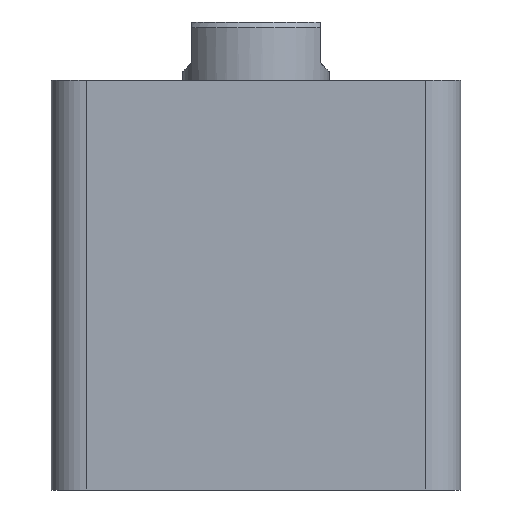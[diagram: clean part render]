
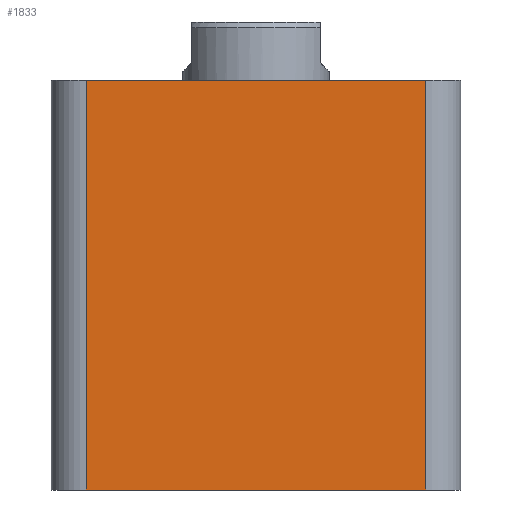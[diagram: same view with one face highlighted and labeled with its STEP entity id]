
A CAD part, front view. The second image highlights one B-rep face of the part: STEP entity #1833.
In plain terms, the highlighted planar face has unit normal (0, -1, 0).
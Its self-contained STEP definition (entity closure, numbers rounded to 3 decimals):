
#128 = AXIS2_PLACEMENT_3D ( 'NONE', #2197, #2192, #2191 ) ;
#293 = FACE_OUTER_BOUND ( 'NONE', #1023, .T. ) ;
#303 = VECTOR ( 'NONE', #2220, 1000. ) ;
#305 = VECTOR ( 'NONE', #2223, 1000. ) ;
#306 = LINE ( 'NONE', #2222, #303 ) ;
#307 = VECTOR ( 'NONE', #2225, 1000. ) ;
#309 = VECTOR ( 'NONE', #2229, 1000. ) ;
#310 = LINE ( 'NONE', #2228, #307 ) ;
#312 = LINE ( 'NONE', #2230, #309 ) ;
#318 = LINE ( 'NONE', #2241, #305 ) ;
#1023 = EDGE_LOOP ( 'NONE', ( #1951, #1941, #1954, #1987 ) ) ;
#1239 = VERTEX_POINT ( 'NONE', #2590 ) ;
#1252 = VERTEX_POINT ( 'NONE', #2573 ) ;
#1253 = VERTEX_POINT ( 'NONE', #2572 ) ;
#1265 = VERTEX_POINT ( 'NONE', #2556 ) ;
#1619 = EDGE_CURVE ( 'NONE', #1252, #1253, #312, .T. ) ;
#1620 = EDGE_CURVE ( 'NONE', #1252, #1265, #310, .T. ) ;
#1621 = EDGE_CURVE ( 'NONE', #1265, #1239, #318, .T. ) ;
#1622 = EDGE_CURVE ( 'NONE', #1239, #1253, #306, .T. ) ;
#1833 = ADVANCED_FACE ( 'NONE', ( #293 ), #2194, .F. ) ;
#1941 = ORIENTED_EDGE ( 'NONE', *, *, #1620, .T. ) ;
#1951 = ORIENTED_EDGE ( 'NONE', *, *, #1619, .F. ) ;
#1954 = ORIENTED_EDGE ( 'NONE', *, *, #1621, .T. ) ;
#1987 = ORIENTED_EDGE ( 'NONE', *, *, #1622, .T. ) ;
#2191 = DIRECTION ( 'NONE',  ( 0., 0., 1. ) ) ;
#2192 = DIRECTION ( 'NONE',  ( 0., 1., 0. ) ) ;
#2194 = PLANE ( 'NONE',  #128 ) ;
#2197 = CARTESIAN_POINT ( 'NONE',  ( -35., -35., 70. ) ) ;
#2220 = DIRECTION ( 'NONE',  ( 0., 0., 1. ) ) ;
#2222 = CARTESIAN_POINT ( 'NONE',  ( 29., -35., 70. ) ) ;
#2223 = DIRECTION ( 'NONE',  ( 1., 0., 0. ) ) ;
#2225 = DIRECTION ( 'NONE',  ( 0., 0., -1. ) ) ;
#2228 = CARTESIAN_POINT ( 'NONE',  ( -29., -35., 70. ) ) ;
#2229 = DIRECTION ( 'NONE',  ( 1., 0., 0. ) ) ;
#2230 = CARTESIAN_POINT ( 'NONE',  ( -35., -35., 70. ) ) ;
#2241 = CARTESIAN_POINT ( 'NONE',  ( -35., -35., 0. ) ) ;
#2556 = CARTESIAN_POINT ( 'NONE',  ( -29., -35., 0. ) ) ;
#2572 = CARTESIAN_POINT ( 'NONE',  ( 29., -35., 70. ) ) ;
#2573 = CARTESIAN_POINT ( 'NONE',  ( -29., -35., 70. ) ) ;
#2590 = CARTESIAN_POINT ( 'NONE',  ( 29., -35., 0. ) ) ;
